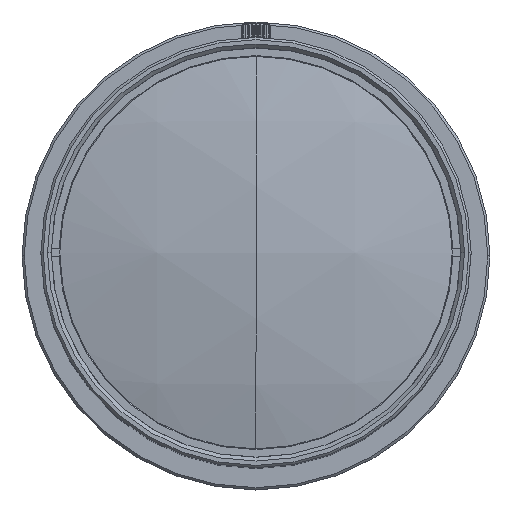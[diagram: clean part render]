
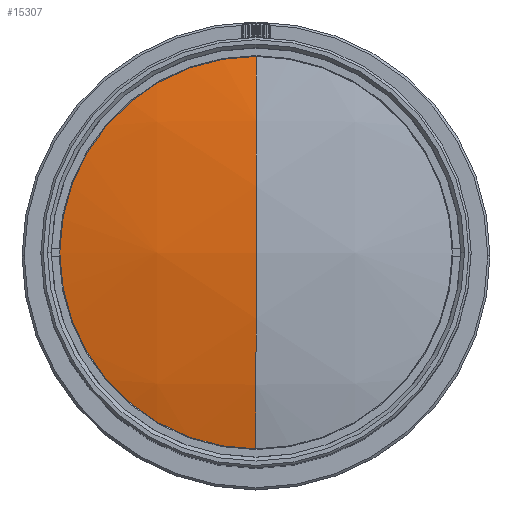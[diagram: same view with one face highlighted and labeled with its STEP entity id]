
A CAD part, top view. The second image highlights one B-rep face of the part: STEP entity #15307.
In plain terms, the highlighted spherical face has radius 107.65 mm.
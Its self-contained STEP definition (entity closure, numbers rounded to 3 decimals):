
#444 = DIRECTION ( 'NONE',  ( 0., 0., 1. ) ) ;
#1142 = DIRECTION ( 'NONE',  ( -1., 0., 0. ) ) ;
#1226 = DIRECTION ( 'NONE',  ( 0., -1., 0. ) ) ;
#2689 = AXIS2_PLACEMENT_3D ( 'NONE', #27018, #1142, #16571 ) ;
#3355 = VERTEX_POINT ( 'NONE', #15281 ) ;
#4372 = VERTEX_POINT ( 'NONE', #14134 ) ;
#4667 = DIRECTION ( 'NONE',  ( 0., 0., -1. ) ) ;
#4915 = CARTESIAN_POINT ( 'NONE',  ( 0., 0., 97.461 ) ) ;
#5029 = CARTESIAN_POINT ( 'NONE',  ( 0., 0., 100.67 ) ) ;
#6163 = AXIS2_PLACEMENT_3D ( 'NONE', #15522, #24245, #4667 ) ;
#6464 = AXIS2_PLACEMENT_3D ( 'NONE', #9820, #16665, #1226 ) ;
#7862 = AXIS2_PLACEMENT_3D ( 'NONE', #15447, #444, #26444 ) ;
#8307 = EDGE_CURVE ( 'NONE', #14793, #24212, #16234, .T. ) ;
#9820 = CARTESIAN_POINT ( 'NONE',  ( 0., 0., -6.98 ) ) ;
#12054 = CARTESIAN_POINT ( 'NONE',  ( 0., 26.088, 97.461 ) ) ;
#13538 = ORIENTED_EDGE ( 'NONE', *, *, #15066, .T. ) ;
#13953 = EDGE_CURVE ( 'NONE', #14793, #4372, #15148, .T. ) ;
#14134 = CARTESIAN_POINT ( 'NONE',  ( -26.088, 0., 97.461 ) ) ;
#14164 = FACE_OUTER_BOUND ( 'NONE', #18080, .T. ) ;
#14793 = VERTEX_POINT ( 'NONE', #12054 ) ;
#14918 = ORIENTED_EDGE ( 'NONE', *, *, #13953, .T. ) ;
#15066 = EDGE_CURVE ( 'NONE', #4372, #3355, #26583, .T. ) ;
#15148 = CIRCLE ( 'NONE', #16086, 26.088 ) ;
#15281 = CARTESIAN_POINT ( 'NONE',  ( 0., -26.088, 97.461 ) ) ;
#15307 = ADVANCED_FACE ( 'NONE', ( #14164 ), #22861, .T. ) ;
#15447 = CARTESIAN_POINT ( 'NONE',  ( 0., 0., 97.461 ) ) ;
#15522 = CARTESIAN_POINT ( 'NONE',  ( 0., 0., -6.98 ) ) ;
#16086 = AXIS2_PLACEMENT_3D ( 'NONE', #4915, #22350, #24359 ) ;
#16234 = CIRCLE ( 'NONE', #6163, 107.65 ) ;
#16571 = DIRECTION ( 'NONE',  ( 0., 1., 0. ) ) ;
#16665 = DIRECTION ( 'NONE',  ( -1., 0., 0. ) ) ;
#18080 = EDGE_LOOP ( 'NONE', ( #14918, #13538, #24958, #24056 ) ) ;
#18790 = CIRCLE ( 'NONE', #6464, 107.65 ) ;
#22350 = DIRECTION ( 'NONE',  ( 0., 0., 1. ) ) ;
#22861 = SPHERICAL_SURFACE ( 'NONE', #2689, 107.65 ) ;
#24056 = ORIENTED_EDGE ( 'NONE', *, *, #8307, .F. ) ;
#24212 = VERTEX_POINT ( 'NONE', #5029 ) ;
#24245 = DIRECTION ( 'NONE',  ( 1., 0., 0. ) ) ;
#24359 = DIRECTION ( 'NONE',  ( -1., 0., 0. ) ) ;
#24532 = EDGE_CURVE ( 'NONE', #3355, #24212, #18790, .T. ) ;
#24958 = ORIENTED_EDGE ( 'NONE', *, *, #24532, .T. ) ;
#26444 = DIRECTION ( 'NONE',  ( -1., 0., 0. ) ) ;
#26583 = CIRCLE ( 'NONE', #7862, 26.088 ) ;
#27018 = CARTESIAN_POINT ( 'NONE',  ( 0., 0., -6.98 ) ) ;
